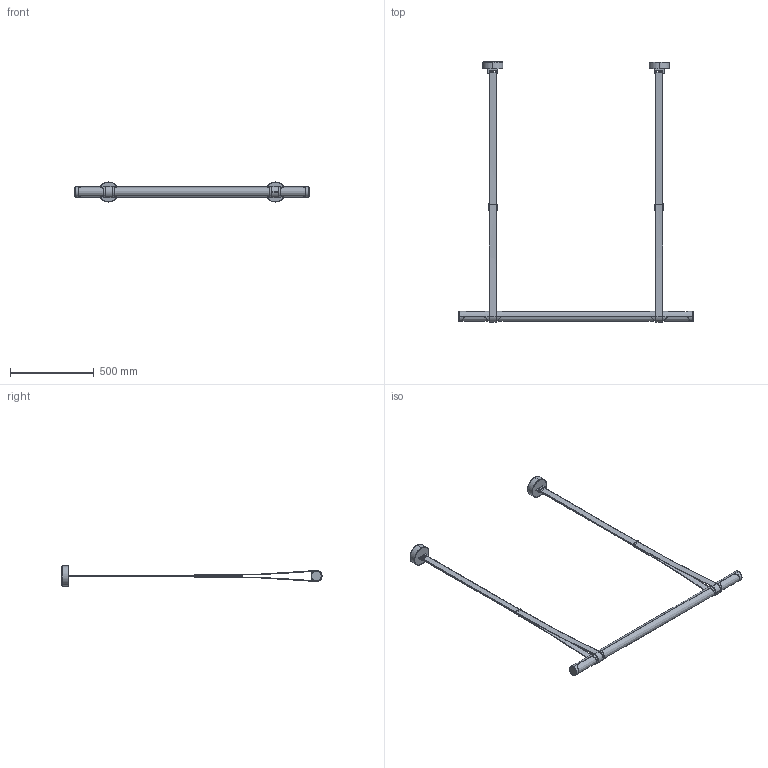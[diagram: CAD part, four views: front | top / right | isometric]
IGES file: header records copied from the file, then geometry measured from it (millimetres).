
Start section: SolidWorks IGES file using analytic representation for surfaces
Global section: file name: C:\Users\Agus\Desktop\C1071\C1253\C1253.IGS; native system: SolidWorks 2018; preprocessor: SolidWorks 2018; author: Agus; date: 190206.170002; units: millimetre
Bounding box: 1400 x 1554.1 x 120 mm (x, y, z)
Surface area: 864060.8 mm2 (no closed solid volume)
Topology: 0 solids, 0 shells, 187 faces, 4226 edges, 4226 vertices
Faces by surface type: bspline 100, revolution 87
